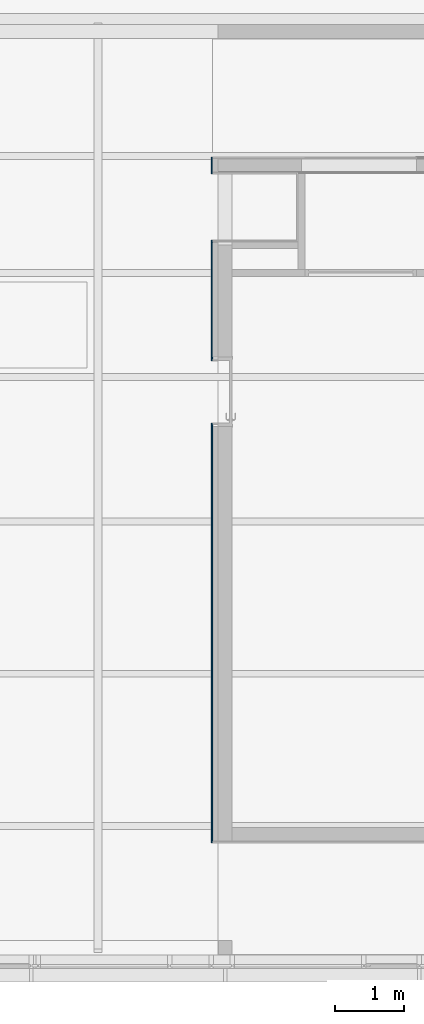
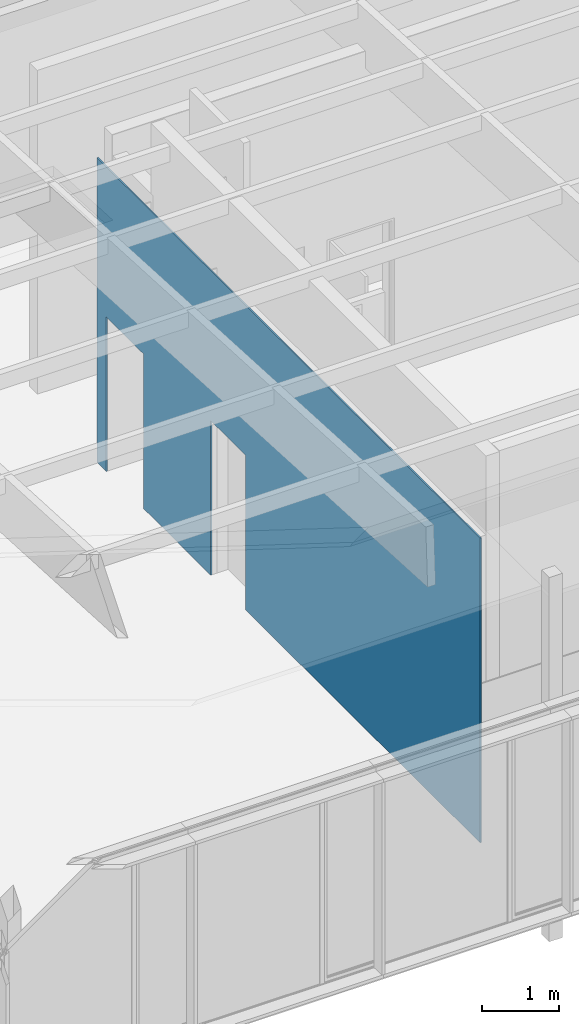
# One storey, part 185 of 240: 1 wall.
"""IFC2X3 building model written with IfcOpenShell, lengths in centimetres."""

import ifcopenshell
import ifcopenshell.guid

model = None  # the IFC model being written
_history = None  # IfcOwnerHistory: only IFC2X3 demands one
_inside = {}  # id of a spatial element -> (the spatial element, [elements in it])
_under = {}  # id of a project, library or spatial element -> (it, [spatial elements below it])
_declared = {}  # id of a project -> (the project, [libraries it declares])
_typed = {}  # id of a type object -> (the type object, [elements of that type])
_made_of = {}  # id of a material, layer set ... -> (it, [elements and type objects made of it])


def new_model(schema):
    """Start an empty IFC model of exactly this schema.

    Asked for "IFC4X3", IfcOpenShell would pick the latest addendum, in which some entities
    have other attributes; the version numbers below select the first issue.
    IFC2X3 requires an IfcOwnerHistory on every rooted entity: one is made here for all.
    """
    global model, _history
    if schema == "IFC4X3":
        model = ifcopenshell.file(schema_version=(4, 3, 0, 0))
    else:
        model = ifcopenshell.file(schema=schema)
    _inside.clear()
    _under.clear()
    _declared.clear()
    _typed.clear()
    _made_of.clear()
    _history = None
    if model.schema == "IFC2X3":
        org = make("IfcOrganization", Name="unknown")
        user = make(
            "IfcPersonAndOrganization",
            ThePerson=make("IfcPerson", FamilyName="unknown"),
            TheOrganization=org,
        )
        app = make(
            "IfcApplication",
            ApplicationDeveloper=org,
            Version="unknown",
            ApplicationFullName="unknown",
            ApplicationIdentifier="unknown",
        )
        _history = make(
            "IfcOwnerHistory",
            OwningUser=user,
            OwningApplication=app,
            ChangeAction="ADDED",
            CreationDate=0,
        )
    return model


def make(cls, **values):
    """One entity of the class cls with the attributes given. An attribute that is None is left unset."""
    return model.create_entity(
        cls, **{name: value for name, value in values.items() if value is not None}
    )


def entity(cls, *values):
    """Any entity or typed value of the class cls, its attributes in the order of the schema. None: left unset."""
    e = model.create_entity(cls)
    for i, value in enumerate(values):
        if value is not None:
            e[i] = value
    return e


def rooted(cls, **values):
    """An entity with a GlobalId (a new one), such as an element, a storey or a relation."""
    return make(cls, GlobalId=ifcopenshell.guid.new(), OwnerHistory=_history, **values)


def si_unit(unit_type, name, prefix=None):
    """IfcSIUnit, for example si_unit("LENGTHUNIT", "METRE", prefix="MILLI")."""
    return make("IfcSIUnit", UnitType=unit_type, Prefix=prefix, Name=name)


def converted_unit(unit_type, name, factor, base, dimensions=None, offset=None):
    """IfcConversionBasedUnit, such as the inch: factor (a typed value) times the base unit."""
    return make(
        "IfcConversionBasedUnit"
        if offset is None
        else "IfcConversionBasedUnitWithOffset",
        ConversionOffset=offset,
        Dimensions=None
        if dimensions is None
        else entity("IfcDimensionalExponents", *dimensions),
        UnitType=unit_type,
        Name=name,
        ConversionFactor=make(
            "IfcMeasureWithUnit", ValueComponent=factor, UnitComponent=base
        ),
    )


def derived_unit(unit_type, elements):
    """IfcDerivedUnit: a product of units, each with its exponent."""
    return make(
        "IfcDerivedUnit",
        Elements=[
            make("IfcDerivedUnitElement", Unit=unit, Exponent=power)
            for unit, power in elements
        ],
        UnitType=unit_type,
    )


def assignment(units):
    """IfcUnitAssignment: the units of a project."""
    return None if units is None else make("IfcUnitAssignment", Units=units)


def point(xyz):
    """IfcCartesianPoint."""
    return None if xyz is None else make("IfcCartesianPoint", Coordinates=xyz)


def direction(xyz):
    """IfcDirection."""
    return None if xyz is None else make("IfcDirection", DirectionRatios=xyz)


def frame(location, z_axis=None, x_axis=None):
    """IfcAxis2Placement3D, a coordinate frame: its origin and axes. An axis left out is left unset."""
    return make(
        "IfcAxis2Placement3D",
        Location=point(location),
        Axis=direction(z_axis),
        RefDirection=direction(x_axis),
    )


def origin():
    """The frame at (0, 0, 0) with its axes left unset."""
    return frame((0.0, 0.0, 0.0))


def place(relative_to, where):
    """IfcLocalPlacement: puts the frame where relative to a parent placement (None: the world)."""
    return make(
        "IfcLocalPlacement", PlacementRelTo=relative_to, RelativePlacement=where
    )


def context(
    kind, dimensions, precision=None, world=None, true_north=None, identifier=None
):
    """IfcGeometricRepresentationContext, for example the 3D "Model" context."""
    return make(
        "IfcGeometricRepresentationContext",
        ContextIdentifier=identifier,
        ContextType=kind,
        CoordinateSpaceDimension=dimensions,
        Precision=precision,
        WorldCoordinateSystem=world,
        TrueNorth=true_north,
    )


def subcontext(parent, identifier, kind, view, scale=None):
    """IfcGeometricRepresentationSubContext, for example "Body" below "Model"."""
    return make(
        "IfcGeometricRepresentationSubContext",
        ContextIdentifier=identifier,
        ContextType=kind,
        ParentContext=parent,
        TargetScale=scale,
        TargetView=view,
    )


def project(units=None, contexts=None):
    """IfcProject with its units and contexts."""
    return rooted(
        "IfcProject",
        Name="project",
        RepresentationContexts=contexts,
        UnitsInContext=assignment(units),
    )


def spatial(cls, under=None, at=None, **own):
    """A site, building, storey or space (cls), placed at a placement, below another one or the project."""
    s = rooted(cls, ObjectPlacement=at, **own)
    if under is not None:
        _under.setdefault(under.id(), (under, []))[1].append(s)
    return s


def faces_of(points, faces, orient=None, outer=None):
    """IfcFace entities. A face is a list of loops; a loop is a list of indices into points, from 0.

    orient and outer hold one flag for each loop. By default every Orientation is true, the
    first loop of a face is its IfcFaceOuterBound and the others are IfcFaceBound.
    """
    made = []
    for i, loops in enumerate(faces):
        bounds = []
        for j, loop in enumerate(loops):
            is_outer = j == 0 if outer is None else outer[i][j]
            bounds.append(
                make(
                    "IfcFaceOuterBound" if is_outer else "IfcFaceBound",
                    Bound=make("IfcPolyLoop", Polygon=[points[k] for k in loop]),
                    Orientation=True if orient is None else orient[i][j],
                )
            )
        made.append(make("IfcFace", Bounds=bounds))
    return made


def faceted_brep(points, faces, orient=None, outer=None, voids=None):
    """IfcFacetedBrep: a solid bounded by flat faces; with voids (closed shells), ...WithVoids."""
    shared = [point(p) for p in points]
    hull = make("IfcClosedShell", CfsFaces=faces_of(shared, faces, orient, outer))
    if voids is None:
        return make("IfcFacetedBrep", Outer=hull)
    return make(
        "IfcFacetedBrepWithVoids",
        Outer=hull,
        Voids=[
            make(cls, CfsFaces=faces_of(shared, fs, o, b)) for cls, fs, o, b in voids
        ],
    )


def shape(context_of_items, identifier, shape_type, items):
    """IfcShapeRepresentation: the items that make up one representation, for example the "Body"."""
    return make(
        "IfcShapeRepresentation",
        ContextOfItems=context_of_items,
        RepresentationIdentifier=identifier,
        RepresentationType=shape_type,
        Items=items,
    )


def material(Name=None, Category=None):
    """IfcMaterial."""
    return make("IfcMaterial", Name=Name, Category=Category)


def layer(
    of_material, thickness, ventilated=None, Name=None, Category=None, Priority=None
):
    """IfcMaterialLayer: one layer of a wall or slab, of a material (None: an air gap)."""
    return make(
        "IfcMaterialLayer",
        Material=of_material,
        LayerThickness=thickness,
        IsVentilated=ventilated,
        Name=Name,
        Category=Category,
        Priority=Priority,
    )


def layer_set(layers, Name=None):
    """IfcMaterialLayerSet."""
    return make("IfcMaterialLayerSet", MaterialLayers=layers, LayerSetName=Name)


def made_of(thing, what):
    """Note that an element or type object is made of a material, layer set ...; save() writes the relation."""
    if what is not None:
        _made_of.setdefault(what.id(), (what, []))[1].append(thing)
    return thing


def type_object(cls, material=None, **own):
    """A type object (cls), such as IfcWallType, which elements share."""
    return made_of(rooted(cls, **own), material)


def element(
    cls,
    number,
    at=None,
    inside=None,
    cuts=None,
    type_object=None,
    material=None,
    context=None,
    identifier="Body",
    shape_type=None,
    held_by="IfcProductDefinitionShape",
    body=None,
    shapes=None,
    **own,
):
    """One element of the class cls, such as IfcWall. Its Tag is "e" and its number.

    at: its placement. inside: the storey or other place that contains it. cuts: it is an
    opening in that element (IfcRelVoidsElement). A single representation is given by context,
    identifier, shape_type and body (its items); several are given by shapes. held_by: the class
    of the entity that holds the representations. save() writes the other relations.
    """
    e = rooted(cls, Tag="e%d" % number, ObjectPlacement=at, **own)
    if body is not None:
        shapes = [shape(context, identifier, shape_type, body)]
    if shapes is not None:
        e.Representation = make(held_by, Representations=shapes)
    if inside is not None:
        _inside.setdefault(inside.id(), (inside, []))[1].append(e)
    if cuts is not None:
        rooted(
            "IfcRelVoidsElement", RelatingBuildingElement=cuts, RelatedOpeningElement=e
        )
    if type_object is not None:
        _typed.setdefault(type_object.id(), (type_object, []))[1].append(e)
    return made_of(e, material)


def aggregate(whole, parts):
    """IfcRelAggregates: a whole, such as a stair, and the parts it consists of."""
    return rooted("IfcRelAggregates", RelatingObject=whole, RelatedObjects=parts)


def save(model, path):
    """Write the relations noted so far, then the file.

    IfcRelAggregates (storeys below a building ...), IfcRelContainedInSpatialStructure (elements
    in a storey), IfcRelDefinesByType, IfcRelAssociatesMaterial and IfcRelDeclares: one each for
    every whole, place, type object, material and project.
    """
    for whole, parts in _under.values():
        aggregate(whole, parts)
    for where, things in _inside.values():
        rooted(
            "IfcRelContainedInSpatialStructure",
            RelatedElements=things,
            RelatingStructure=where,
        )
    for kind, things in _typed.values():
        rooted("IfcRelDefinesByType", RelatedObjects=things, RelatingType=kind)
    for what, things in _made_of.values():
        rooted("IfcRelAssociatesMaterial", RelatedObjects=things, RelatingMaterial=what)
    for by, libraries in _declared.values():
        rooted("IfcRelDeclares", RelatingContext=by, RelatedDefinitions=libraries)
    model.write(path)


model = new_model("IFC2X3")

# Units and contexts
model_context = context("Model", 3, precision=0.001, world=origin(), true_north=direction((6.12303176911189e-17, 1.0)))
body_context = subcontext(model_context, "Body", "Model", "MODEL_VIEW")
ifc_project = project(units=[si_unit("LENGTHUNIT", "METRE", prefix="CENTI"), si_unit("AREAUNIT", "SQUARE_METRE"), si_unit("VOLUMEUNIT", "CUBIC_METRE"), converted_unit("PLANEANGLEUNIT", "DEGREE", entity("IfcRatioMeasure", 0.0174532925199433), si_unit("PLANEANGLEUNIT", "RADIAN"), dimensions=[0, 0, 0, 0, 0, 0, 0]), si_unit("MASSUNIT", "GRAM", prefix="KILO"), derived_unit("MASSDENSITYUNIT", [(si_unit("MASSUNIT", "GRAM", prefix="KILO"), 1), (si_unit("LENGTHUNIT", "METRE"), -3)]), si_unit("TIMEUNIT", "SECOND"), si_unit("FREQUENCYUNIT", "HERTZ"), si_unit("THERMODYNAMICTEMPERATUREUNIT", "DEGREE_CELSIUS"), derived_unit("THERMALTRANSMITTANCEUNIT", [(si_unit("MASSUNIT", "GRAM", prefix="KILO"), 1), (si_unit("THERMODYNAMICTEMPERATUREUNIT", "KELVIN"), -1), (si_unit("TIMEUNIT", "SECOND"), -3)]), derived_unit("VOLUMETRICFLOWRATEUNIT", [(si_unit("LENGTHUNIT", "METRE"), 3), (si_unit("TIMEUNIT", "SECOND"), -1)]), si_unit("ELECTRICCURRENTUNIT", "AMPERE"), si_unit("ELECTRICVOLTAGEUNIT", "VOLT"), si_unit("POWERUNIT", "WATT"), si_unit("FORCEUNIT", "NEWTON", prefix="KILO"), si_unit("ILLUMINANCEUNIT", "LUX"), si_unit("LUMINOUSFLUXUNIT", "LUMEN"), si_unit("LUMINOUSINTENSITYUNIT", "CANDELA"), derived_unit("USERDEFINED", [(si_unit("MASSUNIT", "GRAM", prefix="KILO"), -1), (si_unit("LENGTHUNIT", "METRE"), -2), (si_unit("TIMEUNIT", "SECOND"), 3), (si_unit("LUMINOUSFLUXUNIT", "LUMEN"), 1)]), derived_unit("LINEARVELOCITYUNIT", [(si_unit("LENGTHUNIT", "METRE"), 1), (si_unit("TIMEUNIT", "SECOND"), -1)]), si_unit("PRESSUREUNIT", "PASCAL"), derived_unit("USERDEFINED", [(si_unit("LENGTHUNIT", "METRE"), -2), (si_unit("MASSUNIT", "GRAM", prefix="KILO"), 1), (si_unit("TIMEUNIT", "SECOND"), -2)])], contexts=[model_context])

# Site, building, storey
site_placement = place(None, frame((-2781.94577612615, 7442.24238424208, 0.0)))
site = spatial("IfcSite", under=ifc_project, at=site_placement, Name="Default", CompositionType="ELEMENT")
building_placement = place(site_placement, origin())
building = spatial("IfcBuilding", under=site, at=building_placement, CompositionType="ELEMENT")
storey_placement = place(building_placement, origin())
storey = spatial("IfcBuildingStorey", under=building, at=storey_placement, Name="N00 - COO", CompositionType="ELEMENT", Elevation=0.0)

# Wall
ifc_material = material(Name="CP bouleau perforé")
ifc_layer = layer(ifc_material, 2.0)
ifc_layer_set = layer_set([ifc_layer], Name="Mur de base:06 - habillage bois collée 2cm perforé")
wall_type = type_object("IfcWallType", Name="Mur de base:06 - habillage bois collée 2cm perforé", PredefinedType="STANDARD", material=ifc_layer_set)
wall_placement = place(building_placement, frame((-9633.98738089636, -4396.50027342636, 0.0), z_axis=(0.0, 0.0, 1.0), x_axis=(0.0, -1.0, 0.0)))
element("IfcWall", 1, at=wall_placement, inside=storey, type_object=wall_type, material=ifc_material, Name="Mur de base:06 - habillage bois collée 2cm perforé", ObjectType="Mur de base:06 - habillage bois collée 2cm perforé", context=body_context, shape_type="Brep", body=[
    faceted_brep([(0.0, -1.0, 0.0), (24.0, -1.0, 0.0), (24.0, -1.0, 243.5), (120.0, -1.0, 243.5), (120.0, -1.0, 0.0), (293.462233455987, -1.0, 0.0), (293.462233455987, -1.0, 243.5), (383.462233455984, -1.0, 243.5), (383.462233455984, -1.0, 0.0), (989.0, -1.0, 0.0), (989.0, -1.0, 480.0), (0.0, -1.0, 480.0), (0.0, 1.0, 0.0), (0.0, 1.0, 250.0), (0.0, 1.0, 480.0), (22.0, 1.0, 480.0), (24.0, 1.0, 480.0), (120.0, 1.0, 480.0), (122.0, 1.0, 480.0), (291.462233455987, 1.0, 480.0), (293.462233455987, 1.0, 480.0), (383.462233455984, 1.0, 480.0), (385.462233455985, 1.0, 480.0), (989.0, 1.0, 480.0), (989.0, 1.0, 250.0), (989.0, 1.0, 0.0), (987.0, 1.0, 0.0), (385.462233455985, 1.0, 0.0), (383.462233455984, 1.0, 0.0), (383.462233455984, 1.0, 243.5), (293.462233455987, 1.0, 243.5), (293.462233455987, 1.0, 0.0), (291.462233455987, 1.0, 0.0), (122.0, 1.0, 0.0), (120.0, 1.0, 0.0), (120.0, 1.0, 243.5), (24.0, 1.0, 243.5), (24.0, 1.0, 0.0), (22.0, 1.0, 0.0), (2.0, 1.0, 0.0)], [[[0, 1, 2, 3, 4, 5, 6, 7, 8, 9, 10, 11]], [[12, 13, 14, 15, 16, 17, 18, 19, 20, 21, 22, 23, 24, 25, 26, 27, 28, 29, 30, 31, 32, 33, 34, 35, 36, 37, 38, 39]], [[9, 8, 28, 27, 26, 25]], [[11, 10, 23, 22, 21, 20, 19, 18, 17, 16, 15, 14]], [[5, 4, 34, 33, 32, 31]], [[7, 6, 30, 29]], [[10, 9, 25, 24, 23]], [[0, 11, 14, 13, 12]], [[1, 0, 12, 39, 38, 37]], [[3, 2, 36, 35]], [[4, 3, 35, 34]], [[2, 1, 37, 36]], [[6, 5, 31, 30]], [[8, 7, 29, 28]]]),
])

save(model, "model.ifc")
